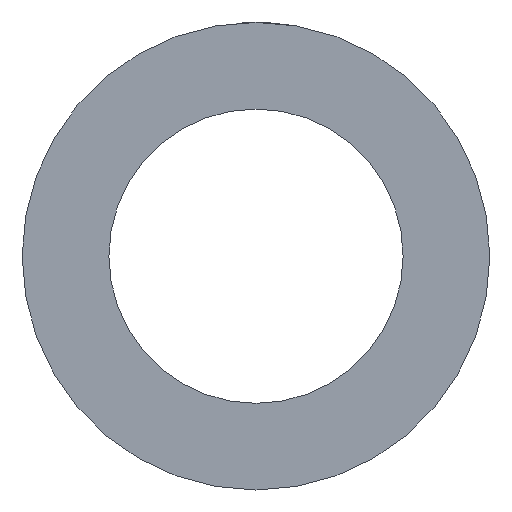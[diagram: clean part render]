
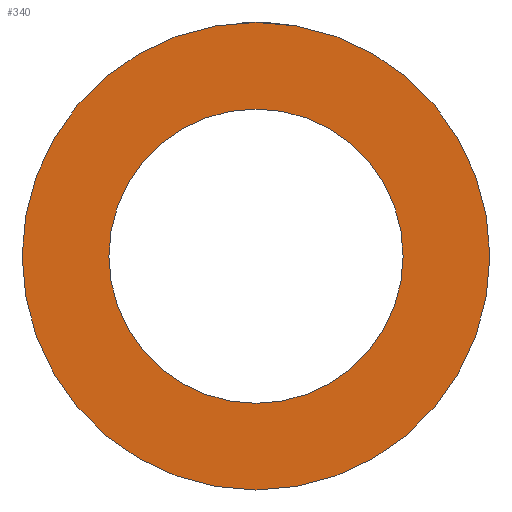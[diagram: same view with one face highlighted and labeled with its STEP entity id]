
A CAD part, left-side view. The second image highlights one B-rep face of the part: STEP entity #340.
In plain terms, the highlighted planar face has unit normal (-1, 0, 0).
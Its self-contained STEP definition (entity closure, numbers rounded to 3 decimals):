
#14 = CARTESIAN_POINT ( 'NONE',  ( 0., 0., 292.5 ) ) ;
#22 = CARTESIAN_POINT ( 'NONE',  ( 0., 0., 0. ) ) ;
#282 = CIRCLE ( 'NONE', #974, 184.1 ) ;
#340 = ADVANCED_FACE ( 'NONE', ( #1678, #1677 ), #2154, .F. ) ;
#483 = VERTEX_POINT ( 'NONE', #1499 ) ;
#484 = EDGE_LOOP ( 'NONE', ( #1316, #1323 ) ) ;
#637 = CARTESIAN_POINT ( 'NONE',  ( 0., 0., -292.5 ) ) ;
#703 = VERTEX_POINT ( 'NONE', #750 ) ;
#750 = CARTESIAN_POINT ( 'NONE',  ( 0., 0., -184.1 ) ) ;
#759 = VERTEX_POINT ( 'NONE', #637 ) ;
#837 = AXIS2_PLACEMENT_3D ( 'NONE', #22, #3220, #2979 ) ;
#909 = EDGE_LOOP ( 'NONE', ( #1379, #1419 ) ) ;
#974 = AXIS2_PLACEMENT_3D ( 'NONE', #1235, #1230, #1214 ) ;
#1214 = DIRECTION ( 'NONE',  ( 0., 0., 1. ) ) ;
#1215 = AXIS2_PLACEMENT_3D ( 'NONE', #1999, #1996, #1986 ) ;
#1230 = DIRECTION ( 'NONE',  ( -1., 0., 0. ) ) ;
#1235 = CARTESIAN_POINT ( 'NONE',  ( 0., 0., 0. ) ) ;
#1263 = AXIS2_PLACEMENT_3D ( 'NONE', #2032, #2029, #2022 ) ;
#1316 = ORIENTED_EDGE ( 'NONE', *, *, #1637, .F. ) ;
#1323 = ORIENTED_EDGE ( 'NONE', *, *, #2078, .F. ) ;
#1379 = ORIENTED_EDGE ( 'NONE', *, *, #2392, .T. ) ;
#1419 = ORIENTED_EDGE ( 'NONE', *, *, #1681, .T. ) ;
#1499 = CARTESIAN_POINT ( 'NONE',  ( 0., 0., 184.1 ) ) ;
#1637 = EDGE_CURVE ( 'NONE', #483, #703, #3310, .T. ) ;
#1677 = FACE_OUTER_BOUND ( 'NONE', #909, .T. ) ;
#1678 = FACE_BOUND ( 'NONE', #484, .T. ) ;
#1681 = EDGE_CURVE ( 'NONE', #759, #2430, #2774, .T. ) ;
#1986 = DIRECTION ( 'NONE',  ( 0., 0., 1. ) ) ;
#1996 = DIRECTION ( 'NONE',  ( -1., 0., 0. ) ) ;
#1999 = CARTESIAN_POINT ( 'NONE',  ( 0., 0., 0. ) ) ;
#2022 = DIRECTION ( 'NONE',  ( 0., 0., 1. ) ) ;
#2029 = DIRECTION ( 'NONE',  ( -1., 0., 0. ) ) ;
#2032 = CARTESIAN_POINT ( 'NONE',  ( 0., 0., 0. ) ) ;
#2078 = EDGE_CURVE ( 'NONE', #703, #483, #282, .T. ) ;
#2107 = DIRECTION ( 'NONE',  ( 0., 0., -1. ) ) ;
#2118 = DIRECTION ( 'NONE',  ( 1., 0., 0. ) ) ;
#2122 = CARTESIAN_POINT ( 'NONE',  ( 0., 184.1, 0. ) ) ;
#2154 = PLANE ( 'NONE',  #2965 ) ;
#2392 = EDGE_CURVE ( 'NONE', #2430, #759, #3093, .T. ) ;
#2430 = VERTEX_POINT ( 'NONE', #14 ) ;
#2774 = CIRCLE ( 'NONE', #1215, 292.5 ) ;
#2965 = AXIS2_PLACEMENT_3D ( 'NONE', #2122, #2118, #2107 ) ;
#2979 = DIRECTION ( 'NONE',  ( 0., 0., 1. ) ) ;
#3093 = CIRCLE ( 'NONE', #837, 292.5 ) ;
#3220 = DIRECTION ( 'NONE',  ( -1., 0., 0. ) ) ;
#3310 = CIRCLE ( 'NONE', #1263, 184.1 ) ;
